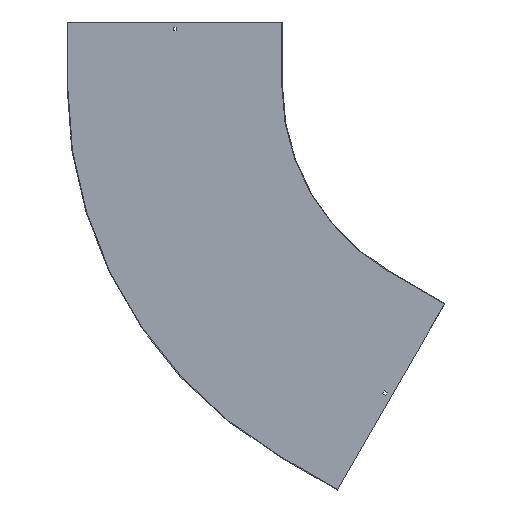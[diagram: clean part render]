
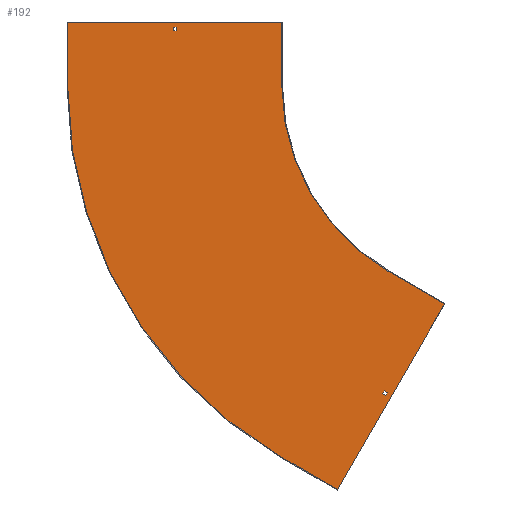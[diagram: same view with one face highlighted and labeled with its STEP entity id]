
A CAD part, front view. The second image highlights one B-rep face of the part: STEP entity #192.
In plain terms, the highlighted planar face has unit normal (0, -1, 0).
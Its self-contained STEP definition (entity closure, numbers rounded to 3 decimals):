
#1 = VECTOR ( 'NONE', #480, 1000. ) ;
#3 = ORIENTED_EDGE ( 'NONE', *, *, #741, .F. ) ;
#20 = VECTOR ( 'NONE', #696, 1000. ) ;
#41 = CARTESIAN_POINT ( 'NONE',  ( -500., -1.5, 0. ) ) ;
#51 = CARTESIAN_POINT ( 'NONE',  ( -253.863, -1.5, -715.704 ) ) ;
#54 = ORIENTED_EDGE ( 'NONE', *, *, #125, .F. ) ;
#56 = EDGE_CURVE ( 'NONE', #771, #777, #289, .T. ) ;
#62 = VERTEX_POINT ( 'NONE', #41 ) ;
#63 = CARTESIAN_POINT ( 'NONE',  ( -264.908, -1.5, -716.834 ) ) ;
#78 = ORIENTED_EDGE ( 'NONE', *, *, #711, .T. ) ;
#96 = EDGE_CURVE ( 'NONE', #186, #278, #154, .T. ) ;
#98 = VERTEX_POINT ( 'NONE', #283 ) ;
#100 = EDGE_CURVE ( 'NONE', #561, #62, #103, .T. ) ;
#103 = LINE ( 'NONE', #835, #160 ) ;
#107 = VERTEX_POINT ( 'NONE', #500 ) ;
#116 = FACE_BOUND ( 'NONE', #863, .T. ) ;
#123 = DIRECTION ( 'NONE',  ( -0.5, 0., -0.866 ) ) ;
#125 = EDGE_CURVE ( 'NONE', #847, #107, #489, .T. ) ;
#126 = LINE ( 'NONE', #529, #407 ) ;
#128 = VECTOR ( 'NONE', #386, 1000. ) ;
#135 = DIRECTION ( 'NONE',  ( 1., 0., 0. ) ) ;
#141 = DIRECTION ( 'NONE',  ( 0., 0., -1. ) ) ;
#151 = CARTESIAN_POINT ( 'NONE',  ( -753.25, -1.5, 0. ) ) ;
#152 = VECTOR ( 'NONE', #135, 1000. ) ;
#154 = LINE ( 'NONE', #231, #305 ) ;
#158 = LINE ( 'NONE', #415, #20 ) ;
#160 = VECTOR ( 'NONE', #577, 1000. ) ;
#163 = EDGE_CURVE ( 'NONE', #806, #468, #158, .T. ) ;
#166 = ORIENTED_EDGE ( 'NONE', *, *, #773, .F. ) ;
#174 = AXIS2_PLACEMENT_3D ( 'NONE', #660, #712, #519 ) ;
#181 = FACE_OUTER_BOUND ( 'NONE', #675, .T. ) ;
#184 = LINE ( 'NONE', #527, #501 ) ;
#185 = LINE ( 'NONE', #635, #581 ) ;
#186 = VERTEX_POINT ( 'NONE', #51 ) ;
#190 = FACE_BOUND ( 'NONE', #270, .T. ) ;
#192 = ADVANCED_FACE ( 'NONE', ( #116, #181, #190 ), #299, .T. ) ;
#193 = DIRECTION ( 'NONE',  ( 0.866, 0., -0.5 ) ) ;
#206 = CARTESIAN_POINT ( 'NONE',  ( -257.113, -1.5, -721.334 ) ) ;
#209 = LINE ( 'NONE', #394, #128 ) ;
#222 = ORIENTED_EDGE ( 'NONE', *, *, #240, .T. ) ;
#231 = CARTESIAN_POINT ( 'NONE',  ( -373.375, -1.5, -646.704 ) ) ;
#233 = VECTOR ( 'NONE', #193, 1000. ) ;
#240 = EDGE_CURVE ( 'NONE', #856, #806, #776, .T. ) ;
#251 = CARTESIAN_POINT ( 'NONE',  ( -370.096, -1.5, -941.025 ) ) ;
#253 = ORIENTED_EDGE ( 'NONE', *, *, #100, .F. ) ;
#268 = CARTESIAN_POINT ( 'NONE',  ( 0., -1.5, 0. ) ) ;
#270 = EDGE_LOOP ( 'NONE', ( #633, #222, #685, #78 ) ) ;
#278 = VERTEX_POINT ( 'NONE', #391 ) ;
#283 = CARTESIAN_POINT ( 'NONE',  ( -753.25, -1.5, 138. ) ) ;
#289 = LINE ( 'NONE', #755, #1 ) ;
#299 = PLANE ( 'NONE',  #174 ) ;
#305 = VECTOR ( 'NONE', #346, 1000. ) ;
#310 = EDGE_CURVE ( 'NONE', #107, #561, #322, .T. ) ;
#322 = LINE ( 'NONE', #678, #152 ) ;
#336 = CARTESIAN_POINT ( 'NONE',  ( -1000., -1.5, 0. ) ) ;
#346 = DIRECTION ( 'NONE',  ( -0.866, 0., 0.5 ) ) ;
#350 = DIRECTION ( 'NONE',  ( 1., 0., 0. ) ) ;
#356 = EDGE_CURVE ( 'NONE', #546, #186, #184, .T. ) ;
#368 = CARTESIAN_POINT ( 'NONE',  ( -746.75, -1.5, 0. ) ) ;
#378 = ORIENTED_EDGE ( 'NONE', *, *, #822, .F. ) ;
#381 = LINE ( 'NONE', #399, #233 ) ;
#386 = DIRECTION ( 'NONE',  ( 0.866, 0., -0.5 ) ) ;
#391 = CARTESIAN_POINT ( 'NONE',  ( -261.658, -1.5, -711.204 ) ) ;
#392 = CARTESIAN_POINT ( 'NONE',  ( -120.096, -1.5, -508.013 ) ) ;
#394 = CARTESIAN_POINT ( 'NONE',  ( -250., -1.5, -433.013 ) ) ;
#399 = CARTESIAN_POINT ( 'NONE',  ( -376.625, -1.5, -652.334 ) ) ;
#407 = VECTOR ( 'NONE', #788, 1000. ) ;
#411 = DIRECTION ( 'NONE',  ( 0., 0., 1. ) ) ;
#412 = AXIS2_PLACEMENT_3D ( 'NONE', #680, #789, #141 ) ;
#415 = CARTESIAN_POINT ( 'NONE',  ( 0., -1.5, 129. ) ) ;
#423 = AXIS2_PLACEMENT_3D ( 'NONE', #268, #534, #734 ) ;
#435 = CARTESIAN_POINT ( 'NONE',  ( -500., -1.5, -866.025 ) ) ;
#446 = VERTEX_POINT ( 'NONE', #392 ) ;
#450 = ORIENTED_EDGE ( 'NONE', *, *, #559, .F. ) ;
#453 = CARTESIAN_POINT ( 'NONE',  ( -250., -1.5, -433.013 ) ) ;
#467 = VERTEX_POINT ( 'NONE', #63 ) ;
#468 = VERTEX_POINT ( 'NONE', #794 ) ;
#480 = DIRECTION ( 'NONE',  ( -0.866, 0., 0.5 ) ) ;
#483 = CARTESIAN_POINT ( 'NONE',  ( 0., -1.5, 138. ) ) ;
#489 = LINE ( 'NONE', #568, #524 ) ;
#500 = CARTESIAN_POINT ( 'NONE',  ( -1000., -1.5, 150. ) ) ;
#501 = VECTOR ( 'NONE', #786, 1000. ) ;
#519 = DIRECTION ( 'NONE',  ( 0., 0., -1. ) ) ;
#524 = VECTOR ( 'NONE', #411, 1000. ) ;
#527 = CARTESIAN_POINT ( 'NONE',  ( 119.512, -1.5, -69. ) ) ;
#529 = CARTESIAN_POINT ( 'NONE',  ( -119.346, -1.5, -506.714 ) ) ;
#534 = DIRECTION ( 'NONE',  ( 0., 1., 0. ) ) ;
#540 = LINE ( 'NONE', #151, #854 ) ;
#546 = VERTEX_POINT ( 'NONE', #206 ) ;
#553 = VERTEX_POINT ( 'NONE', #453 ) ;
#559 = EDGE_CURVE ( 'NONE', #446, #771, #126, .T. ) ;
#561 = VERTEX_POINT ( 'NONE', #594 ) ;
#568 = CARTESIAN_POINT ( 'NONE',  ( -1000., -1.5, 0. ) ) ;
#571 = ORIENTED_EDGE ( 'NONE', *, *, #834, .F. ) ;
#577 = DIRECTION ( 'NONE',  ( 0., 0., -1. ) ) ;
#581 = VECTOR ( 'NONE', #123, 1000. ) ;
#594 = CARTESIAN_POINT ( 'NONE',  ( -500., -1.5, 150. ) ) ;
#618 = VECTOR ( 'NONE', #350, 1000. ) ;
#627 = ORIENTED_EDGE ( 'NONE', *, *, #356, .F. ) ;
#632 = ORIENTED_EDGE ( 'NONE', *, *, #310, .F. ) ;
#633 = ORIENTED_EDGE ( 'NONE', *, *, #638, .T. ) ;
#635 = CARTESIAN_POINT ( 'NONE',  ( 111.717, -1.5, -64.5 ) ) ;
#638 = EDGE_CURVE ( 'NONE', #98, #856, #818, .T. ) ;
#645 = DIRECTION ( 'NONE',  ( 0., 0., -1. ) ) ;
#660 = CARTESIAN_POINT ( 'NONE',  ( 0., -1.5, 0. ) ) ;
#662 = CARTESIAN_POINT ( 'NONE',  ( -746.75, -1.5, 129. ) ) ;
#664 = DIRECTION ( 'NONE',  ( 0., 0., 1. ) ) ;
#667 = CARTESIAN_POINT ( 'NONE',  ( -746.75, -1.5, 138. ) ) ;
#675 = EDGE_LOOP ( 'NONE', ( #632, #54, #3, #718, #450, #571, #747, #253 ) ) ;
#678 = CARTESIAN_POINT ( 'NONE',  ( -1001.5, -1.5, 150. ) ) ;
#680 = CARTESIAN_POINT ( 'NONE',  ( 0., -1.5, 0. ) ) ;
#685 = ORIENTED_EDGE ( 'NONE', *, *, #163, .T. ) ;
#694 = CIRCLE ( 'NONE', #412, 500. ) ;
#696 = DIRECTION ( 'NONE',  ( -1., 0., 0. ) ) ;
#711 = EDGE_CURVE ( 'NONE', #468, #98, #540, .T. ) ;
#712 = DIRECTION ( 'NONE',  ( 0., -1., 0. ) ) ;
#718 = ORIENTED_EDGE ( 'NONE', *, *, #56, .F. ) ;
#734 = DIRECTION ( 'NONE',  ( 0., 0., -1. ) ) ;
#741 = EDGE_CURVE ( 'NONE', #777, #847, #812, .T. ) ;
#747 = ORIENTED_EDGE ( 'NONE', *, *, #785, .F. ) ;
#755 = CARTESIAN_POINT ( 'NONE',  ( -370.096, -1.5, -941.025 ) ) ;
#766 = ORIENTED_EDGE ( 'NONE', *, *, #96, .F. ) ;
#771 = VERTEX_POINT ( 'NONE', #251 ) ;
#773 = EDGE_CURVE ( 'NONE', #278, #467, #185, .T. ) ;
#776 = LINE ( 'NONE', #368, #833 ) ;
#777 = VERTEX_POINT ( 'NONE', #435 ) ;
#785 = EDGE_CURVE ( 'NONE', #62, #553, #694, .T. ) ;
#786 = DIRECTION ( 'NONE',  ( 0.5, 0., 0.866 ) ) ;
#788 = DIRECTION ( 'NONE',  ( -0.5, 0., -0.866 ) ) ;
#789 = DIRECTION ( 'NONE',  ( 0., -1., 0. ) ) ;
#794 = CARTESIAN_POINT ( 'NONE',  ( -753.25, -1.5, 129. ) ) ;
#806 = VERTEX_POINT ( 'NONE', #662 ) ;
#812 = CIRCLE ( 'NONE', #423, 1000. ) ;
#818 = LINE ( 'NONE', #483, #618 ) ;
#822 = EDGE_CURVE ( 'NONE', #467, #546, #381, .T. ) ;
#833 = VECTOR ( 'NONE', #645, 1000. ) ;
#834 = EDGE_CURVE ( 'NONE', #553, #446, #209, .T. ) ;
#835 = CARTESIAN_POINT ( 'NONE',  ( -500., -1.5, 150. ) ) ;
#847 = VERTEX_POINT ( 'NONE', #336 ) ;
#854 = VECTOR ( 'NONE', #664, 1000. ) ;
#856 = VERTEX_POINT ( 'NONE', #667 ) ;
#863 = EDGE_LOOP ( 'NONE', ( #766, #627, #378, #166 ) ) ;
